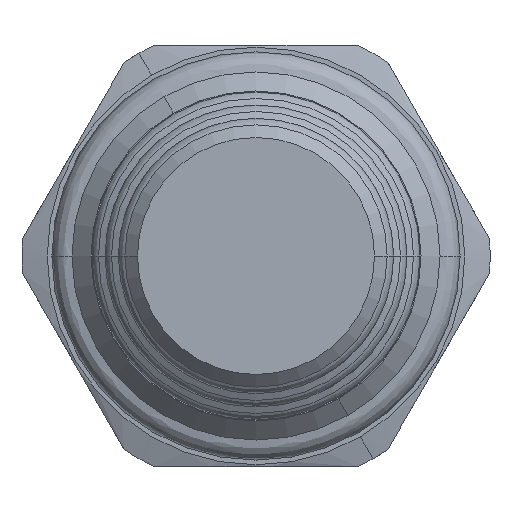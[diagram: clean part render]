
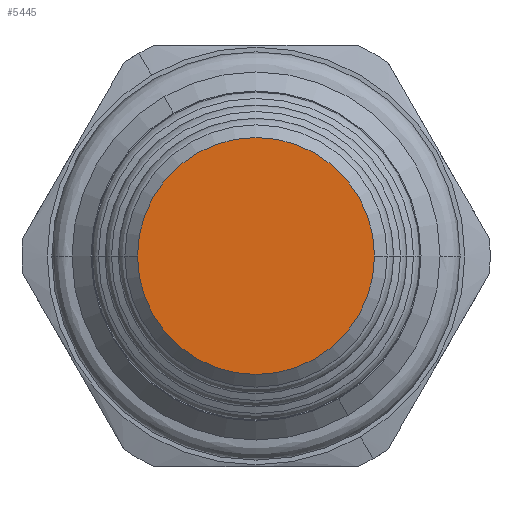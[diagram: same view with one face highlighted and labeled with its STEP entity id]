
A CAD part, front view. The second image highlights one B-rep face of the part: STEP entity #5445.
In plain terms, the highlighted planar face has unit normal (0, -1, 0).
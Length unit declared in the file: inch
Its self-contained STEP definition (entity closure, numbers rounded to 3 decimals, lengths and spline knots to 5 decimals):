
#1965=CARTESIAN_POINT('',(0.,-2.4385,0.));
#1966=DIRECTION('',(0.,1.,0.));
#1967=DIRECTION('',(1.,0.,0.));
#1968=AXIS2_PLACEMENT_3D('',#1965,#1966,#1967);
#1983=CARTESIAN_POINT('',(0.,-2.4385,0.));
#1984=DIRECTION('',(0.,1.,0.));
#1985=DIRECTION('',(-1.,0.,0.));
#1986=AXIS2_PLACEMENT_3D('',#1983,#1984,#1985);
#2431=CARTESIAN_POINT('',(-0.281,-2.4385,0.));
#2432=CARTESIAN_POINT('',(0.281,-2.4385,0.));
#2433=VERTEX_POINT('',#2431);
#2434=VERTEX_POINT('',#2432);
#5435=CARTESIAN_POINT('',(0.,-2.4385,0.));
#5436=DIRECTION('',(0.,1.,0.));
#5437=DIRECTION('',(1.,0.,0.));
#5438=AXIS2_PLACEMENT_3D('',#5435,#5436,#5437);
#5439=PLANE('',#5438);
#5440=ORIENTED_EDGE('',*,*,#5425,.T.);
#5442=ORIENTED_EDGE('',*,*,#5441,.T.);
#5443=EDGE_LOOP('',(#5440,#5442));
#5444=FACE_OUTER_BOUND('',#5443,.F.);
#5445=ADVANCED_FACE('',(#5444),#5439,.F.);
#1969=CIRCLE('',#1968,0.281);
#1987=CIRCLE('',#1986,0.281);
#5425=EDGE_CURVE('',#2434,#2433,#1969,.T.);
#5441=EDGE_CURVE('',#2433,#2434,#1987,.T.);
